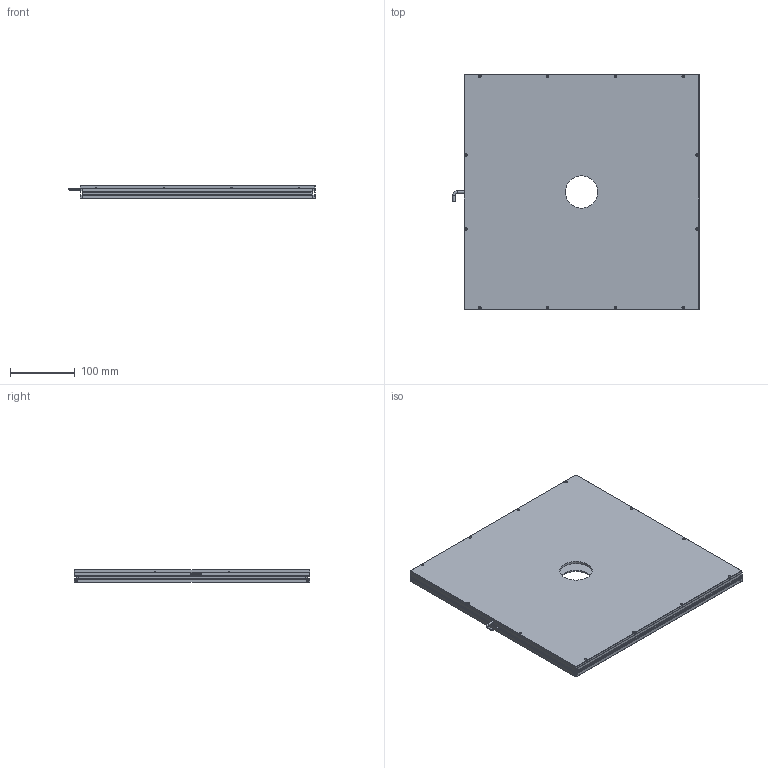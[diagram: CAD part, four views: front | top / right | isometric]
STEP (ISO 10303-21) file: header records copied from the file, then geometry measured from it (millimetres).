
FILE_DESCRIPTION (( 'STEP AP203' ), '1' );
FILE_NAME ('CRT-2KFLD350350Y50-¼òÒ×3DÍ¼.STEP', '2021-11-24T06:42:00', ( 'Admin' ), ( '' ), 'SwSTEP 2.0', 'SolidWorks 2018', '' );
FILE_SCHEMA (( 'CONFIG_CONTROL_DESIGN' ));
Length unit declared in the file: millimetre
Products named in the file (1): CRT-2KFLD350350Y50-潠眢3D芞
Bounding box: 381.25 x 364 x 20 mm (x, y, z)
Surface area: 684171.1 mm2 (no closed solid volume)
Topology: 0 solids, 9 shells, 171 faces, 635 edges, 459 vertices
Faces by surface type: cylinder 81, plane 79, cone 9, bspline 2
Entity records: 6950 total; most frequent: CARTESIAN_POINT 1400, DIRECTION 1196, ORIENTED_EDGE 965, EDGE_CURVE 635, VERTEX_POINT 459, AXIS2_PLACEMENT_3D 411, VECTOR 374, LINE 374
